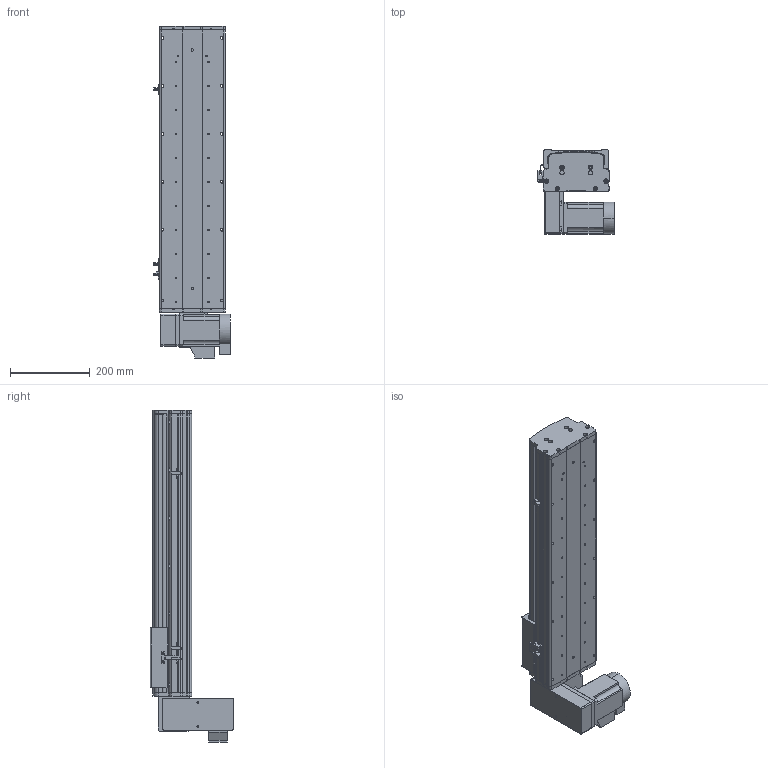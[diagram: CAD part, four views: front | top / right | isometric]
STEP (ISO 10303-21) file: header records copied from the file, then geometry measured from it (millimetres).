
FILE_DESCRIPTION (( 'STEP AP214' ), '1' );
FILE_NAME ('KSD165B-S450-MLD-CM .STEP', '2017-10-16T06:55:41', ( '微软用户' ), ( '微软中国' ), 'SwSTEP 2.0', 'SolidWorks 2014', '' );
FILE_SCHEMA (( 'AUTOMOTIVE_DESIGN' ));
Length unit declared in the file: millimetre
Products named in the file (17): 拸秶雄ん750W侜督萇儂; U倰嫖萇假蚾璃; U倰嫖萇EEㄜSX672; 覜茼え68遵圉猾敕; KSD165模组-同步带-防撞垫2; KSD165模组同步带-防撞垫1; KSD165耀郪-ヶ傷啣1-肮祭湍; KSD165模组-后端板1-同步带; KSD165模组-同步带滑动座-最新版; KSD165B-S450-MLD-CM  ; 130宽模组马达安装板连板上下折丝杆同步带; 130宽模组保护罩上下左右折-同步带; HTPA26S5M250-A-H8 750W萇儂蚚; HTPA26S5M250-A-H8 400W萇儂蚚 ; 165宽马达安装板同步带左-改; KSD165模组-同步带防尘盖1-450行程-最新版; KSD165模组同步带底板-450行程-最新
Assembly tree (20 placements, depth 2):
  KSD165B-S450-MLD-CM  
    KSD165模组-同步带滑动座-最新版
    KSD165模组-后端板1-同步带
    KSD165耀郪-ヶ傷啣1-肮祭湍
    KSD165模组同步带-防撞垫1
    KSD165模组-同步带-防撞垫2
    覜茼え68遵圉猾敕
    U倰嫖萇EEㄜSX672  x3
    U倰嫖萇假蚾璃  x3
    拸秶雄ん750W侜督萇儂
    KSD165模组同步带底板-450行程-最新
    KSD165模组-同步带防尘盖1-450行程-最新版
    165宽马达安装板同步带左-改
    HTPA26S5M250-A-H8 400W萇儂蚚 
    HTPA26S5M250-A-H8 750W萇儂蚚
    130宽模组保护罩上下左右折-同步带
    130宽模组马达安装板连板上下折丝杆同步带
Bounding box: 191.2 x 210 x 831 mm (x, y, z)
Volume: 5436378 mm3; surface area: 1256500.3 mm2
Topology: 21 solids, 22 shells, 1893 faces, 5328 edges, 3476 vertices
Faces by surface type: cylinder 1201, plane 580, cone 112
Entity records: 60776 total; most frequent: CARTESIAN_POINT 12438, DIRECTION 10048, ORIENTED_EDGE 9316, EDGE_CURVE 4658, AXIS2_PLACEMENT_3D 3932, VERTEX_POINT 3068, CIRCLE 2236, LINE 2184
